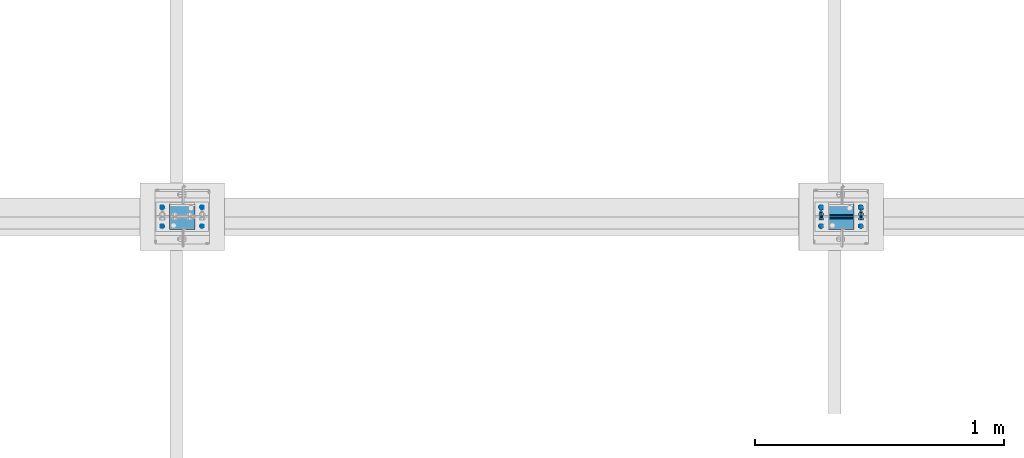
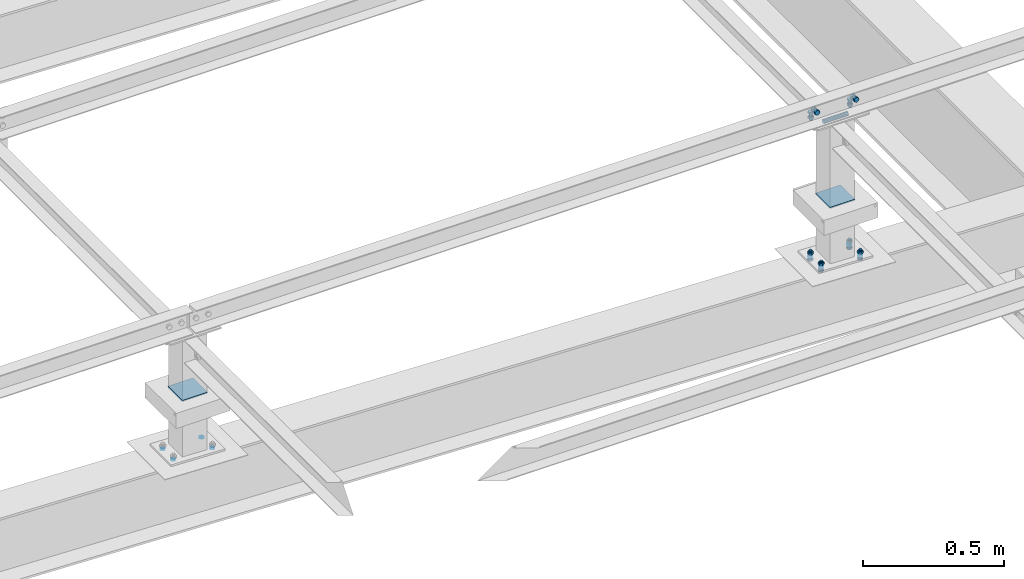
# One storey, part 189 of 3134: 8 mechanical fasteners, 5 elements without a shape of their own.
"""IFC2X3 building model written with IfcOpenShell, lengths in millimetres."""

import ifcopenshell
import ifcopenshell.guid

model = None  # the IFC model being written
_history = None  # IfcOwnerHistory: only IFC2X3 demands one
_inside = {}  # id of a spatial element -> (the spatial element, [elements in it])
_under = {}  # id of a project, library or spatial element -> (it, [spatial elements below it])
_declared = {}  # id of a project -> (the project, [libraries it declares])
_typed = {}  # id of a type object -> (the type object, [elements of that type])
_made_of = {}  # id of a material, layer set ... -> (it, [elements and type objects made of it])


def new_model(schema):
    """Start an empty IFC model of exactly this schema.

    Asked for "IFC4X3", IfcOpenShell would pick the latest addendum, in which some entities
    have other attributes; the version numbers below select the first issue.
    IFC2X3 requires an IfcOwnerHistory on every rooted entity: one is made here for all.
    """
    global model, _history
    if schema == "IFC4X3":
        model = ifcopenshell.file(schema_version=(4, 3, 0, 0))
    else:
        model = ifcopenshell.file(schema=schema)
    _inside.clear()
    _under.clear()
    _declared.clear()
    _typed.clear()
    _made_of.clear()
    _history = None
    if model.schema == "IFC2X3":
        org = make("IfcOrganization", Name="unknown")
        user = make(
            "IfcPersonAndOrganization",
            ThePerson=make("IfcPerson", FamilyName="unknown"),
            TheOrganization=org,
        )
        app = make(
            "IfcApplication",
            ApplicationDeveloper=org,
            Version="unknown",
            ApplicationFullName="unknown",
            ApplicationIdentifier="unknown",
        )
        _history = make(
            "IfcOwnerHistory",
            OwningUser=user,
            OwningApplication=app,
            ChangeAction="ADDED",
            CreationDate=0,
        )
    return model


def make(cls, **values):
    """One entity of the class cls with the attributes given. An attribute that is None is left unset."""
    return model.create_entity(
        cls, **{name: value for name, value in values.items() if value is not None}
    )


def rooted(cls, **values):
    """An entity with a GlobalId (a new one), such as an element, a storey or a relation."""
    return make(cls, GlobalId=ifcopenshell.guid.new(), OwnerHistory=_history, **values)


def si_unit(unit_type, name, prefix=None):
    """IfcSIUnit, for example si_unit("LENGTHUNIT", "METRE", prefix="MILLI")."""
    return make("IfcSIUnit", UnitType=unit_type, Prefix=prefix, Name=name)


def assignment(units):
    """IfcUnitAssignment: the units of a project."""
    return None if units is None else make("IfcUnitAssignment", Units=units)


def point(xyz):
    """IfcCartesianPoint."""
    return None if xyz is None else make("IfcCartesianPoint", Coordinates=xyz)


def direction(xyz):
    """IfcDirection."""
    return None if xyz is None else make("IfcDirection", DirectionRatios=xyz)


def frame(location, z_axis=None, x_axis=None):
    """IfcAxis2Placement3D, a coordinate frame: its origin and axes. An axis left out is left unset."""
    return make(
        "IfcAxis2Placement3D",
        Location=point(location),
        Axis=direction(z_axis),
        RefDirection=direction(x_axis),
    )


def origin_with_axes():
    """The frame at (0, 0, 0) with the z axis (0, 0, 1) and the x axis (1, 0, 0) written out."""
    return frame((0.0, 0.0, 0.0), z_axis=(0.0, 0.0, 1.0), x_axis=(1.0, 0.0, 0.0))


def place(relative_to, where):
    """IfcLocalPlacement: puts the frame where relative to a parent placement (None: the world)."""
    return make(
        "IfcLocalPlacement", PlacementRelTo=relative_to, RelativePlacement=where
    )


def context(
    kind, dimensions, precision=None, world=None, true_north=None, identifier=None
):
    """IfcGeometricRepresentationContext, for example the 3D "Model" context."""
    return make(
        "IfcGeometricRepresentationContext",
        ContextIdentifier=identifier,
        ContextType=kind,
        CoordinateSpaceDimension=dimensions,
        Precision=precision,
        WorldCoordinateSystem=world,
        TrueNorth=true_north,
    )


def subcontext(parent, identifier, kind, view, scale=None):
    """IfcGeometricRepresentationSubContext, for example "Body" below "Model"."""
    return make(
        "IfcGeometricRepresentationSubContext",
        ContextIdentifier=identifier,
        ContextType=kind,
        ParentContext=parent,
        TargetScale=scale,
        TargetView=view,
    )


def project(units=None, contexts=None):
    """IfcProject with its units and contexts."""
    return rooted(
        "IfcProject",
        Name="project",
        RepresentationContexts=contexts,
        UnitsInContext=assignment(units),
    )


def spatial(cls, under=None, at=None, **own):
    """A site, building, storey or space (cls), placed at a placement, below another one or the project."""
    s = rooted(cls, ObjectPlacement=at, **own)
    if under is not None:
        _under.setdefault(under.id(), (under, []))[1].append(s)
    return s


def faces_of(points, faces, orient=None, outer=None):
    """IfcFace entities. A face is a list of loops; a loop is a list of indices into points, from 0.

    orient and outer hold one flag for each loop. By default every Orientation is true, the
    first loop of a face is its IfcFaceOuterBound and the others are IfcFaceBound.
    """
    made = []
    for i, loops in enumerate(faces):
        bounds = []
        for j, loop in enumerate(loops):
            is_outer = j == 0 if outer is None else outer[i][j]
            bounds.append(
                make(
                    "IfcFaceOuterBound" if is_outer else "IfcFaceBound",
                    Bound=make("IfcPolyLoop", Polygon=[points[k] for k in loop]),
                    Orientation=True if orient is None else orient[i][j],
                )
            )
        made.append(make("IfcFace", Bounds=bounds))
    return made


def faceted_brep(points, faces, orient=None, outer=None, voids=None):
    """IfcFacetedBrep: a solid bounded by flat faces; with voids (closed shells), ...WithVoids."""
    shared = [point(p) for p in points]
    hull = make("IfcClosedShell", CfsFaces=faces_of(shared, faces, orient, outer))
    if voids is None:
        return make("IfcFacetedBrep", Outer=hull)
    return make(
        "IfcFacetedBrepWithVoids",
        Outer=hull,
        Voids=[
            make(cls, CfsFaces=faces_of(shared, fs, o, b)) for cls, fs, o, b in voids
        ],
    )


def shape(context_of_items, identifier, shape_type, items):
    """IfcShapeRepresentation: the items that make up one representation, for example the "Body"."""
    return make(
        "IfcShapeRepresentation",
        ContextOfItems=context_of_items,
        RepresentationIdentifier=identifier,
        RepresentationType=shape_type,
        Items=items,
    )


def source(mapping_origin, context_of_items, identifier, shape_type, items):
    """IfcRepresentationMap: a shape defined once, which mapped items show again and again."""
    return make(
        "IfcRepresentationMap",
        MappingOrigin=mapping_origin,
        MappedRepresentation=shape(context_of_items, identifier, shape_type, items),
    )


def transform(
    local_origin,
    x_axis=None,
    y_axis=None,
    z_axis=None,
    scale=None,
    scale2=None,
    scale3=None,
    uniform=True,
):
    """IfcCartesianTransformationOperator3D, or its non-uniform kind. x_axis, y_axis, z_axis: its Axis1, 2, 3."""
    if uniform:
        return make(
            "IfcCartesianTransformationOperator3D",
            Axis1=direction(x_axis),
            Axis2=direction(y_axis),
            LocalOrigin=point(local_origin),
            Scale=scale,
            Axis3=direction(z_axis),
        )
    return make(
        "IfcCartesianTransformationOperator3DnonUniform",
        Axis1=direction(x_axis),
        Axis2=direction(y_axis),
        LocalOrigin=point(local_origin),
        Scale=scale,
        Axis3=direction(z_axis),
        Scale2=scale2,
        Scale3=scale3,
    )


def mapped(mapping_source, mapping_target):
    """IfcMappedItem: shows the shape of a source again, moved by a transform."""
    return make(
        "IfcMappedItem", MappingSource=mapping_source, MappingTarget=mapping_target
    )


def material(Name=None, Category=None):
    """IfcMaterial."""
    return make("IfcMaterial", Name=Name, Category=Category)


def made_of(thing, what):
    """Note that an element or type object is made of a material, layer set ...; save() writes the relation."""
    if what is not None:
        _made_of.setdefault(what.id(), (what, []))[1].append(thing)
    return thing


def type_object(cls, material=None, **own):
    """A type object (cls), such as IfcWallType, which elements share."""
    return made_of(rooted(cls, **own), material)


def element(
    cls,
    number,
    at=None,
    inside=None,
    cuts=None,
    type_object=None,
    material=None,
    context=None,
    identifier="Body",
    shape_type=None,
    held_by="IfcProductDefinitionShape",
    body=None,
    shapes=None,
    **own,
):
    """One element of the class cls, such as IfcWall. Its Tag is "e" and its number.

    at: its placement. inside: the storey or other place that contains it. cuts: it is an
    opening in that element (IfcRelVoidsElement). A single representation is given by context,
    identifier, shape_type and body (its items); several are given by shapes. held_by: the class
    of the entity that holds the representations. save() writes the other relations.
    """
    e = rooted(cls, Tag="e%d" % number, ObjectPlacement=at, **own)
    if body is not None:
        shapes = [shape(context, identifier, shape_type, body)]
    if shapes is not None:
        e.Representation = make(held_by, Representations=shapes)
    if inside is not None:
        _inside.setdefault(inside.id(), (inside, []))[1].append(e)
    if cuts is not None:
        rooted(
            "IfcRelVoidsElement", RelatingBuildingElement=cuts, RelatedOpeningElement=e
        )
    if type_object is not None:
        _typed.setdefault(type_object.id(), (type_object, []))[1].append(e)
    return made_of(e, material)


def aggregate(whole, parts):
    """IfcRelAggregates: a whole, such as a stair, and the parts it consists of."""
    return rooted("IfcRelAggregates", RelatingObject=whole, RelatedObjects=parts)


def save(model, path):
    """Write the relations noted so far, then the file.

    IfcRelAggregates (storeys below a building ...), IfcRelContainedInSpatialStructure (elements
    in a storey), IfcRelDefinesByType, IfcRelAssociatesMaterial and IfcRelDeclares: one each for
    every whole, place, type object, material and project.
    """
    for whole, parts in _under.values():
        aggregate(whole, parts)
    for where, things in _inside.values():
        rooted(
            "IfcRelContainedInSpatialStructure",
            RelatedElements=things,
            RelatingStructure=where,
        )
    for kind, things in _typed.values():
        rooted("IfcRelDefinesByType", RelatedObjects=things, RelatingType=kind)
    for what, things in _made_of.values():
        rooted("IfcRelAssociatesMaterial", RelatedObjects=things, RelatingMaterial=what)
    for by, libraries in _declared.values():
        rooted("IfcRelDeclares", RelatingContext=by, RelatedDefinitions=libraries)
    model.write(path)


model = new_model("IFC2X3")

# Units and contexts
model_context = context("Model", 3, precision=1e-05, world=origin_with_axes())
body_context = subcontext(model_context, "Body", "Model", "MODEL_VIEW")
ifc_project = project(units=[si_unit("LENGTHUNIT", "METRE", prefix="MILLI"), si_unit("AREAUNIT", "SQUARE_METRE"), si_unit("VOLUMEUNIT", "CUBIC_METRE"), si_unit("MASSUNIT", "GRAM", prefix="KILO"), si_unit("TIMEUNIT", "SECOND"), si_unit("PLANEANGLEUNIT", "RADIAN"), si_unit("SOLIDANGLEUNIT", "STERADIAN"), si_unit("THERMODYNAMICTEMPERATUREUNIT", "DEGREE_CELSIUS"), si_unit("LUMINOUSINTENSITYUNIT", "LUMEN")], contexts=[model_context])

# Site, building, storey
site_placement = place(None, origin_with_axes())
site = spatial("IfcSite", under=ifc_project, at=site_placement, CompositionType="ELEMENT")
building_placement = place(site_placement, origin_with_axes())
building = spatial("IfcBuilding", under=site, at=building_placement, Name="Undefined", CompositionType="ELEMENT")
storey_placement = place(building_placement, origin_with_axes())
storey = spatial("IfcBuildingStorey", under=building, at=storey_placement, Name="Undefined", CompositionType="ELEMENT", Elevation=0.0)

# Assembly, mechanical fastener
assembly_1_placement = place(storey_placement, origin_with_axes())
assembly_1 = element("IfcElementAssembly", 1, at=assembly_1_placement, inside=storey, AssemblyPlace="NOTDEFINED", PredefinedType="RIGID_FRAME")
ifc_material_1 = material(Name="8.8")
mechanical_fastener_type = type_object("IfcMechanicalFastenerType", Name="Bolt assembly")
shared_shape_1 = source(origin_with_axes(), body_context, "Body", "Brep", [
    faceted_brep([(10.9696551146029, -14.0, 0.0), (5.48482755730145, -14.0, 9.5), (-5.48482755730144, -14.0, 9.5), (-10.9696551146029, -14.0, 1.34339530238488e-15), (-5.48482755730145, -14.0, -9.5), (5.48482755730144, -14.0, -9.50000000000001), (5.48482755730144, -6.0, -9.50000000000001), (-5.48482755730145, -6.0, -9.5), (-10.9696551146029, -6.0, 1.34339530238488e-15), (-5.48482755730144, -6.0, 9.5), (5.48482755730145, -6.0, 9.5), (10.9696551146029, -6.0, 0.0), (6.0, -6.0, 0.0), (5.19615242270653, -6.0, 3.00000000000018), (2.99999999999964, -6.0, 5.19615242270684), (-6.21801588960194e-13, -6.0, 6.0), (-3.00000000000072, -6.0, 5.19615242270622), (-5.19615242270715, -6.0, 2.9999999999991), (-6.0, -6.0, -1.24360317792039e-12), (-5.19615242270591, -6.0, -3.00000000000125), (-2.99999999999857, -6.0, -5.19615242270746), (1.85874342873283e-12, -6.0, -6.0), (3.00000000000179, -6.0, -5.1961524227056), (5.19615242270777, -6.0, -2.99999999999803), (5.19615242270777, 24.0, -2.99999999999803), (3.00000000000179, 24.0, -5.1961524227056), (1.85874342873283e-12, 24.0, -6.0), (-2.99999999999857, 24.0, -5.19615242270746), (-5.19615242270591, 24.0, -3.00000000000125), (-6.0, 24.0, -1.24360317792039e-12), (-5.19615242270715, 24.0, 2.9999999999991), (-3.00000000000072, 24.0, 5.19615242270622), (-6.21801588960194e-13, 24.0, 6.0), (2.99999999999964, 24.0, 5.19615242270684), (5.19615242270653, 24.0, 3.00000000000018), (6.0, 24.0, 0.0), (10.9696551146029, 6.00000000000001, 0.0), (5.48482755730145, 6.00000000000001, 9.5), (-5.48482755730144, 6.00000000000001, 9.5), (-10.9696551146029, 6.00000000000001, 1.34339530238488e-15), (-5.48482755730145, 6.00000000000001, -9.5), (5.48482755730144, 6.00000000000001, -9.50000000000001), (5.48482755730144, 16.0, -9.50000000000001), (-5.48482755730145, 16.0, -9.5), (-10.9696551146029, 16.0, 1.34339530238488e-15), (-5.48482755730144, 16.0, 9.5), (5.48482755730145, 16.0, 9.5), (10.9696551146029, 16.0, 0.0)], [[[0, 1, 2, 3, 4, 5]], [[6, 7, 8, 9, 10, 11]], [[0, 11, 10, 1]], [[1, 10, 9, 2]], [[2, 9, 8, 3]], [[3, 8, 7, 4]], [[4, 7, 6, 5]], [[5, 6, 11, 0]], [[12, 13, 14, 15, 16, 17, 18, 19, 20, 21, 22, 23]], [[24, 25, 26, 27, 28, 29, 30, 31, 32, 33, 34, 35]], [[12, 35, 34, 13]], [[13, 34, 33, 14]], [[14, 33, 32, 15]], [[15, 32, 31, 16]], [[16, 31, 30, 17]], [[17, 30, 29, 18]], [[18, 29, 28, 19]], [[19, 28, 27, 20]], [[20, 27, 26, 21]], [[21, 26, 25, 22]], [[22, 25, 24, 23]], [[23, 24, 35, 12]], [[36, 37, 38, 39, 40, 41]], [[42, 43, 44, 45, 46, 47]], [[36, 47, 46, 37]], [[37, 46, 45, 38]], [[38, 45, 44, 39]], [[39, 44, 43, 40]], [[40, 43, 42, 41]], [[41, 42, 47, 36]]]),
    faceted_brep([(7.0, -0.1, 0.0), (6.06217782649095, -0.1, 3.50000000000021), (3.49999999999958, -0.1, 6.06217782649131), (-7.25435187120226e-13, -0.1, 7.0), (-3.50000000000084, -0.1, 6.06217782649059), (-6.06217782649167, -0.1, 3.49999999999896), (-7.0, -0.1, -1.45087037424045e-12), (-6.06217782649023, -0.1, -3.50000000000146), (-3.49999999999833, -0.1, -6.06217782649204), (2.1685340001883e-12, -0.1, -7.0), (3.50000000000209, -0.1, -6.06217782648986), (6.0621778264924, -0.1, -3.4999999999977), (6.0621778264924, 6.00000000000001, -3.4999999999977), (3.50000000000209, 6.00000000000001, -6.06217782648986), (2.1685340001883e-12, 6.00000000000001, -7.0), (-3.49999999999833, 6.00000000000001, -6.06217782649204), (-6.06217782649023, 6.00000000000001, -3.50000000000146), (-7.0, 6.00000000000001, -1.45087037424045e-12), (-6.06217782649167, 6.00000000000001, 3.49999999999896), (-3.50000000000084, 6.00000000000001, 6.06217782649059), (-7.25435187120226e-13, 6.00000000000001, 7.0), (3.49999999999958, 6.00000000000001, 6.06217782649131), (6.06217782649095, 6.00000000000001, 3.50000000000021), (7.0, 6.00000000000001, 0.0), (7.0, -5.9, 0.0), (6.06217782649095, -5.9, 3.50000000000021), (3.49999999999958, -5.9, 6.06217782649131), (-7.25435187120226e-13, -5.9, 7.0), (-3.50000000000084, -5.9, 6.06217782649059), (-6.06217782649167, -5.9, 3.49999999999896), (-7.0, -5.9, -1.45087037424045e-12), (-6.06217782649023, -5.9, -3.50000000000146), (-3.49999999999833, -5.9, -6.06217782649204), (2.1685340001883e-12, -5.9, -7.0), (3.50000000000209, -5.9, -6.06217782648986), (6.0621778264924, -5.9, -3.4999999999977), (6.0621778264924, 0.0999999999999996, -3.4999999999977), (3.50000000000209, 0.0999999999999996, -6.06217782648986), (2.1685340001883e-12, 0.0999999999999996, -7.0), (-3.49999999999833, 0.0999999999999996, -6.06217782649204), (-6.06217782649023, 0.0999999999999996, -3.50000000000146), (-7.0, 0.0999999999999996, -1.45087037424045e-12), (-6.06217782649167, 0.0999999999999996, 3.49999999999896), (-3.50000000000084, 0.0999999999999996, 6.06217782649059), (-7.25435187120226e-13, 0.0999999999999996, 7.0), (3.49999999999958, 0.0999999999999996, 6.06217782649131), (6.06217782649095, 0.0999999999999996, 3.50000000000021), (7.0, 0.0999999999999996, 0.0)], [[[0, 1, 2, 3, 4, 5, 6, 7, 8, 9, 10, 11]], [[12, 13, 14, 15, 16, 17, 18, 19, 20, 21, 22, 23]], [[0, 23, 22, 1]], [[1, 22, 21, 2]], [[2, 21, 20, 3]], [[3, 20, 19, 4]], [[4, 19, 18, 5]], [[5, 18, 17, 6]], [[6, 17, 16, 7]], [[7, 16, 15, 8]], [[8, 15, 14, 9]], [[9, 14, 13, 10]], [[10, 13, 12, 11]], [[11, 12, 23, 0]], [[24, 25, 26, 27, 28, 29, 30, 31, 32, 33, 34, 35]], [[36, 37, 38, 39, 40, 41, 42, 43, 44, 45, 46, 47]], [[24, 47, 46, 25]], [[25, 46, 45, 26]], [[26, 45, 44, 27]], [[27, 44, 43, 28]], [[28, 43, 42, 29]], [[29, 42, 41, 30]], [[30, 41, 40, 31]], [[31, 40, 39, 32]], [[32, 39, 38, 33]], [[33, 38, 37, 34]], [[34, 37, 36, 35]], [[35, 36, 47, 24]]]),
])
mechanical_fastener_1_placement = place(assembly_1_placement, frame((8340.0, 40285.0, 4365.0), z_axis=(1.0, 0.0, 0.0), x_axis=(0.0, -1.0, 0.0)))
mechanical_fastener_1 = element("IfcMechanicalFastener", 2, at=mechanical_fastener_1_placement, type_object=mechanical_fastener_type, material=ifc_material_1, Name="Bolt assembly", NominalDiameter=12.0, NominalLength=30.0, context=body_context, shape_type="MappedRepresentation", body=[
    mapped(shared_shape_1, transform((0.0, -5.32963895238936e-10, -79.9999999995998))),
    mapped(shared_shape_1, transform((0.0, 5.3114490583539e-10, 79.9999999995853))),
])

assembly_2_placement = place(storey_placement, origin_with_axes())
assembly_2 = element("IfcElementAssembly", 3, at=assembly_2_placement, inside=storey, AssemblyPlace="NOTDEFINED", PredefinedType="RIGID_FRAME")
shared_shape_2 = source(origin_with_axes(), body_context, "Body", "Brep", [
    faceted_brep([(10.9696551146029, -4.18346828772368, 0.0), (5.48482755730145, -4.18346828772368, 9.5), (-5.48482755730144, -4.18346828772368, 9.5), (-10.9696551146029, -4.18346828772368, 1.34339530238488e-15), (-5.48482755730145, -4.18346828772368, -9.5), (5.48482755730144, -4.18346828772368, -9.50000000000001), (5.48482755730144, 3.81653171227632, -9.50000000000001), (-5.48482755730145, 3.81653171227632, -9.5), (-10.9696551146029, 3.81653171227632, 1.34339530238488e-15), (-5.48482755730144, 3.81653171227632, 9.5), (5.48482755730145, 3.81653171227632, 9.5), (10.9696551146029, 3.81653171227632, 0.0), (6.0, 3.81653171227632, 0.0), (5.19615242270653, 3.81653171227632, 3.00000000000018), (2.99999999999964, 3.81653171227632, 5.19615242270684), (-6.21801588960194e-13, 3.81653171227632, 6.0), (-3.00000000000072, 3.81653171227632, 5.19615242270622), (-5.19615242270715, 3.81653171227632, 2.9999999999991), (-6.0, 3.81653171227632, -1.24360317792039e-12), (-5.19615242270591, 3.81653171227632, -3.00000000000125), (-2.99999999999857, 3.81653171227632, -5.19615242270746), (1.85874342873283e-12, 3.81653171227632, -6.0), (3.00000000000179, 3.81653171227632, -5.1961524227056), (5.19615242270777, 3.81653171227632, -2.99999999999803), (5.19615242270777, 38.8165317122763, -2.99999999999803), (3.00000000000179, 38.8165317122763, -5.1961524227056), (1.85874342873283e-12, 38.8165317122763, -6.0), (-2.99999999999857, 38.8165317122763, -5.19615242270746), (-5.19615242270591, 38.8165317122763, -3.00000000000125), (-6.0, 38.8165317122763, -1.24360317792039e-12), (-5.19615242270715, 38.8165317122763, 2.9999999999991), (-3.00000000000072, 38.8165317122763, 5.19615242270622), (-6.21801588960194e-13, 38.8165317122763, 6.0), (2.99999999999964, 38.8165317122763, 5.19615242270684), (5.19615242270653, 38.8165317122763, 3.00000000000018), (6.0, 38.8165317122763, 0.0), (10.9696551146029, 23.0139082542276, 0.0), (5.48482755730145, 23.0139082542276, 9.5), (-5.48482755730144, 23.0139082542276, 9.5), (-10.9696551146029, 23.0139082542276, 1.34339530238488e-15), (-5.48482755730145, 23.0139082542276, -9.5), (5.48482755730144, 23.0139082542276, -9.50000000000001), (5.48482755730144, 33.0139082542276, -9.50000000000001), (-5.48482755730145, 33.0139082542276, -9.5), (-10.9696551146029, 33.0139082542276, 1.34339530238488e-15), (-5.48482755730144, 33.0139082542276, 9.5), (5.48482755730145, 33.0139082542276, 9.5), (10.9696551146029, 33.0139082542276, 0.0)], [[[0, 1, 2, 3, 4, 5]], [[6, 7, 8, 9, 10, 11]], [[0, 11, 10, 1]], [[1, 10, 9, 2]], [[2, 9, 8, 3]], [[3, 8, 7, 4]], [[4, 7, 6, 5]], [[5, 6, 11, 0]], [[12, 13, 14, 15, 16, 17, 18, 19, 20, 21, 22, 23]], [[24, 25, 26, 27, 28, 29, 30, 31, 32, 33, 34, 35]], [[12, 35, 34, 13]], [[13, 34, 33, 14]], [[14, 33, 32, 15]], [[15, 32, 31, 16]], [[16, 31, 30, 17]], [[17, 30, 29, 18]], [[18, 29, 28, 19]], [[19, 28, 27, 20]], [[20, 27, 26, 21]], [[21, 26, 25, 22]], [[22, 25, 24, 23]], [[23, 24, 35, 12]], [[36, 37, 38, 39, 40, 41]], [[42, 43, 44, 45, 46, 47]], [[36, 47, 46, 37]], [[37, 46, 45, 38]], [[38, 45, 44, 39]], [[39, 44, 43, 40]], [[40, 43, 42, 41]], [[41, 42, 47, 36]]]),
    faceted_brep([(7.0, 3.91653171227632, 0.0), (6.06217782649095, 3.91653171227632, 3.50000000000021), (3.49999999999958, 3.91653171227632, 6.06217782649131), (-7.25435187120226e-13, 3.91653171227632, 7.0), (-3.50000000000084, 3.91653171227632, 6.06217782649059), (-6.06217782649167, 3.91653171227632, 3.49999999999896), (-7.0, 3.91653171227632, -1.45087037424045e-12), (-6.06217782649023, 3.91653171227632, -3.50000000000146), (-3.49999999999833, 3.91653171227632, -6.06217782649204), (2.1685340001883e-12, 3.91653171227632, -7.0), (3.50000000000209, 3.91653171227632, -6.06217782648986), (6.0621778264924, 3.91653171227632, -3.4999999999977), (6.0621778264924, 13.1165315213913, -3.4999999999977), (3.50000000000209, 13.1165315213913, -6.06217782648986), (2.1685340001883e-12, 13.1165315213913, -7.0), (-3.49999999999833, 13.1165315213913, -6.06217782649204), (-6.06217782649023, 13.1165315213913, -3.50000000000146), (-7.0, 13.1165315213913, -1.45087037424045e-12), (-6.06217782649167, 13.1165315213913, 3.49999999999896), (-3.50000000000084, 13.1165315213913, 6.06217782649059), (-7.25435187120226e-13, 13.1165315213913, 7.0), (3.49999999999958, 13.1165315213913, 6.06217782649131), (6.06217782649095, 13.1165315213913, 3.50000000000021), (7.0, 13.1165315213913, 0.0), (7.0, 14.9139082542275, 0.0), (6.06217782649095, 14.9139082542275, 3.50000000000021), (3.49999999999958, 14.9139082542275, 6.06217782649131), (-7.25435187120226e-13, 14.9139082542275, 7.0), (-3.50000000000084, 14.9139082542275, 6.06217782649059), (-6.06217782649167, 14.9139082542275, 3.49999999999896), (-7.0, 14.9139082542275, -1.45087037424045e-12), (-6.06217782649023, 14.9139082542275, -3.50000000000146), (-3.49999999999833, 14.9139082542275, -6.06217782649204), (2.1685340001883e-12, 14.9139082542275, -7.0), (3.50000000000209, 14.9139082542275, -6.06217782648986), (6.0621778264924, 14.9139082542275, -3.4999999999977), (6.0621778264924, 23.0139082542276, -3.4999999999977), (3.50000000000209, 23.0139082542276, -6.06217782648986), (2.1685340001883e-12, 23.0139082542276, -7.0), (-3.49999999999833, 23.0139082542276, -6.06217782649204), (-6.06217782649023, 23.0139082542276, -3.50000000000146), (-7.0, 23.0139082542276, -1.45087037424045e-12), (-6.06217782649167, 23.0139082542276, 3.49999999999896), (-3.50000000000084, 23.0139082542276, 6.06217782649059), (-7.25435187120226e-13, 23.0139082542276, 7.0), (3.49999999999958, 23.0139082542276, 6.06217782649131), (6.06217782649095, 23.0139082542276, 3.50000000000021), (7.0, 23.0139082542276, 0.0)], [[[0, 1, 2, 3, 4, 5, 6, 7, 8, 9, 10, 11]], [[12, 13, 14, 15, 16, 17, 18, 19, 20, 21, 22, 23]], [[0, 23, 22, 1]], [[1, 22, 21, 2]], [[2, 21, 20, 3]], [[3, 20, 19, 4]], [[4, 19, 18, 5]], [[5, 18, 17, 6]], [[6, 17, 16, 7]], [[7, 16, 15, 8]], [[8, 15, 14, 9]], [[9, 14, 13, 10]], [[10, 13, 12, 11]], [[11, 12, 23, 0]], [[24, 25, 26, 27, 28, 29, 30, 31, 32, 33, 34, 35]], [[36, 37, 38, 39, 40, 41, 42, 43, 44, 45, 46, 47]], [[24, 47, 46, 25]], [[25, 46, 45, 26]], [[26, 45, 44, 27]], [[27, 44, 43, 28]], [[28, 43, 42, 29]], [[29, 42, 41, 30]], [[30, 41, 40, 31]], [[31, 40, 39, 32]], [[32, 39, 38, 33]], [[33, 38, 37, 34]], [[34, 37, 36, 35]], [[35, 36, 47, 24]]]),
])
mechanical_fastener_2_placement = place(assembly_2_placement, frame((8339.1931765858, 40287.9999999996, 3735.10000668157), z_axis=(-0.999387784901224, 0.0, 0.0349865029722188), x_axis=(0.0, -1.0, 0.0)))
mechanical_fastener_2 = element("IfcMechanicalFastener", 4, at=mechanical_fastener_2_placement, type_object=mechanical_fastener_type, material=ifc_material_1, Name="Bolt assembly", NominalDiameter=12.0, NominalLength=35.0, context=body_context, shape_type="MappedRepresentation", body=[
    mapped(shared_shape_2, transform((0.0, -5.32963895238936e-10, -79.9999999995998))),
    mapped(shared_shape_2, transform((76.0, -5.32963895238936e-10, -79.9999999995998))),
    mapped(shared_shape_2, transform((0.0, 5.3114490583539e-10, 79.9999999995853))),
    mapped(shared_shape_2, transform((76.0, 5.3114490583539e-10, 79.9999999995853))),
])

assembly_3_placement = place(storey_placement, origin_with_axes())
assembly_3 = element("IfcElementAssembly", 5, at=assembly_3_placement, inside=storey, AssemblyPlace="NOTDEFINED", PredefinedType="RIGID_FRAME")
shared_shape_3 = source(origin_with_axes(), body_context, "Body", "Brep", [
    faceted_brep([(7.0, 13.0000253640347, 0.0), (6.06217782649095, 13.0000253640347, 3.50000000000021), (3.49999999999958, 13.0000253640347, 6.06217782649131), (-7.25435187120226e-13, 13.0000253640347, 7.0), (-3.50000000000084, 13.0000253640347, 6.06217782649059), (-6.06217782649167, 13.0000253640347, 3.49999999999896), (-7.0, 13.0000253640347, -1.45087037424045e-12), (-6.06217782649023, 13.0000253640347, -3.50000000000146), (-3.49999999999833, 13.0000253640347, -6.06217782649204), (2.1685340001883e-12, 13.0000253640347, -7.0), (3.50000000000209, 13.0000253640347, -6.06217782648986), (6.0621778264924, 13.0000253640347, -3.4999999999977), (6.0621778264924, 15.0999999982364, -3.4999999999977), (3.50000000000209, 15.0999999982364, -6.06217782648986), (2.1685340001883e-12, 15.0999999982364, -7.0), (-3.49999999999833, 15.0999999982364, -6.06217782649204), (-6.06217782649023, 15.0999999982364, -3.50000000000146), (-7.0, 15.0999999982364, -1.45087037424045e-12), (-6.06217782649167, 15.0999999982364, 3.49999999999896), (-3.50000000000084, 15.0999999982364, 6.06217782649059), (-7.25435187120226e-13, 15.0999999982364, 7.0), (3.49999999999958, 15.0999999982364, 6.06217782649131), (6.06217782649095, 15.0999999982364, 3.50000000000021), (7.0, 15.0999999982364, 0.0)], [[[0, 1, 2, 3, 4, 5, 6, 7, 8, 9, 10, 11]], [[12, 13, 14, 15, 16, 17, 18, 19, 20, 21, 22, 23]], [[0, 23, 22, 1]], [[1, 22, 21, 2]], [[2, 21, 20, 3]], [[3, 20, 19, 4]], [[4, 19, 18, 5]], [[5, 18, 17, 6]], [[6, 17, 16, 7]], [[7, 16, 15, 8]], [[8, 15, 14, 9]], [[9, 14, 13, 10]], [[10, 13, 12, 11]], [[11, 12, 23, 0]]]),
])
mechanical_fastener_3_placement = place(assembly_3_placement, frame((5690.86474073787, 40287.9999999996, 3827.79222028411), z_axis=(-0.999387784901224, 0.0, 0.0349865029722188), x_axis=(0.0, -1.0, 0.0)))
mechanical_fastener_3 = element("IfcMechanicalFastener", 6, at=mechanical_fastener_3_placement, type_object=mechanical_fastener_type, material=ifc_material_1, Name="Bolt assembly", NominalDiameter=12.0, NominalLength=2.0, context=body_context, shape_type="MappedRepresentation", body=[
    mapped(shared_shape_3, transform((0.0, -5.32963895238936e-10, -79.9999999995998))),
    mapped(shared_shape_3, transform((76.0, -5.32963895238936e-10, -79.9999999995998))),
    mapped(shared_shape_3, transform((0.0, 5.3114490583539e-10, 79.9999999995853))),
    mapped(shared_shape_3, transform((76.0, 5.3114490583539e-10, 79.9999999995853))),
])
aggregate(assembly_3, [mechanical_fastener_3])

assembly_4_placement = place(storey_placement, origin_with_axes())
assembly_4 = element("IfcElementAssembly", 7, at=assembly_4_placement, inside=storey, AssemblyPlace="NOTDEFINED", PredefinedType="RIGID_FRAME")
mechanical_fastener_4_placement = place(assembly_4_placement, frame((8339.1931765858, 40287.9999999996, 3735.10000668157), z_axis=(-0.999387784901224, 0.0, 0.0349865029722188), x_axis=(0.0, -1.0, 0.0)))
mechanical_fastener_4 = element("IfcMechanicalFastener", 8, at=mechanical_fastener_4_placement, type_object=mechanical_fastener_type, material=ifc_material_1, Name="Bolt assembly", NominalDiameter=12.0, NominalLength=2.0, context=body_context, shape_type="MappedRepresentation", body=[
    mapped(shared_shape_3, transform((0.0, -5.32963895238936e-10, -79.9999999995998))),
    mapped(shared_shape_3, transform((76.0, -5.32963895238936e-10, -79.9999999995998))),
    mapped(shared_shape_3, transform((0.0, 5.3114490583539e-10, 79.9999999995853))),
    mapped(shared_shape_3, transform((76.0, 5.3114490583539e-10, 79.9999999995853))),
])
aggregate(assembly_4, [mechanical_fastener_4])

# Mechanical fastener
shared_shape_4 = source(origin_with_axes(), body_context, "Body", "Brep", [
    faceted_brep([(9.0, -50.0, 0.0), (7.79422863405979, -50.0, 4.50000000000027), (4.49999999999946, -50.0, 7.79422863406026), (-9.3270238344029e-13, -50.0, 9.0), (-4.50000000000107, -50.0, 7.79422863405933), (-7.79422863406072, -50.0, 4.49999999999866), (-9.0, -50.0, -1.86540476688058e-12), (-7.79422863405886, -50.0, -4.50000000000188), (-4.49999999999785, -50.0, -7.79422863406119), (2.78811514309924e-12, -50.0, -9.0), (4.50000000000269, -50.0, -7.7942286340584), (7.79422863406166, -50.0, -4.49999999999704), (7.79422863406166, 50.1, -4.49999999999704), (4.50000000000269, 50.1, -7.7942286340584), (2.78811514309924e-12, 50.1, -9.0), (-4.49999999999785, 50.1, -7.79422863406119), (-7.79422863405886, 50.1, -4.50000000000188), (-9.0, 50.1, -1.86540476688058e-12), (-7.79422863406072, 50.1, 4.49999999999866), (-4.50000000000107, 50.1, 7.79422863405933), (-9.3270238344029e-13, 50.1, 9.0), (4.49999999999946, 50.1, 7.79422863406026), (7.79422863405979, 50.1, 4.50000000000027), (9.0, 50.1, 0.0)], [[[0, 1, 2, 3, 4, 5, 6, 7, 8, 9, 10, 11]], [[12, 13, 14, 15, 16, 17, 18, 19, 20, 21, 22, 23]], [[0, 23, 22, 1]], [[1, 22, 21, 2]], [[2, 21, 20, 3]], [[3, 20, 19, 4]], [[4, 19, 18, 5]], [[5, 18, 17, 6]], [[6, 17, 16, 7]], [[7, 16, 15, 8]], [[8, 15, 14, 9]], [[9, 14, 13, 10]], [[10, 13, 12, 11]], [[11, 12, 23, 0]]]),
])
mechanical_fastener_5_placement = place(assembly_2_placement, frame((8340.0, 40250.0, 4345.0), z_axis=(0.0, 1.0, 0.0), x_axis=(0.0, 0.0, 1.0)))
mechanical_fastener_5 = element("IfcMechanicalFastener", 9, at=mechanical_fastener_5_placement, type_object=mechanical_fastener_type, material=ifc_material_1, Name="Bolt assembly", NominalDiameter=16.0, NominalLength=100.0, context=body_context, shape_type="MappedRepresentation", body=[
    mapped(shared_shape_4, transform((0.0, 0.0, 0.0))),
])

# Assembly, mechanical fastener
assembly_5_placement = place(storey_placement, origin_with_axes())
assembly_5 = element("IfcElementAssembly", 10, at=assembly_5_placement, inside=storey, AssemblyPlace="NOTDEFINED", PredefinedType="RIGID_FRAME")
ifc_material_2 = material(Name="6.8")
shared_shape_5 = source(origin_with_axes(), body_context, "Body", "Brep", [
    faceted_brep([(51.5, 1.36424205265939e-12, 50.0), (51.3858192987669, 1.36424205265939e-12, 50.5740251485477), (51.0606601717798, 1.36424205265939e-12, 51.0606601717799), (50.5740251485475, 1.36424205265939e-12, 51.385819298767), (-50.0000000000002, 1.36424205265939e-12, 51.5), (-50.7500000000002, 1.36424205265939e-12, 51.2990381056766), (-51.2990381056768, 1.36424205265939e-12, 50.7499999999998), (-51.5, 1.36424205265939e-12, 49.9999999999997), (-51.5, 1.36424205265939e-12, -50.0000000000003), (-51.2990381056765, 1.36424205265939e-12, -50.7500000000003), (-50.7499999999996, 1.36424205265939e-12, -51.2990381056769), (-49.9999999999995, 1.36424205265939e-12, -51.5), (50.0000000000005, 1.36424205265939e-12, -51.5), (50.7500000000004, 1.36424205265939e-12, -51.2990381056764), (51.2990381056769, 1.36424205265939e-12, -50.7499999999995), (51.5, 1.36424205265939e-12, -49.9999999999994), (51.5, 5.10000000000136, -49.9999999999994), (51.2990381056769, 5.10000000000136, -50.7499999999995), (50.7500000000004, 5.10000000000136, -51.2990381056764), (50.0000000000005, 5.10000000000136, -51.5), (-49.9999999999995, 5.10000000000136, -51.5), (-50.7499999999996, 5.10000000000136, -51.2990381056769), (-51.2990381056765, 5.10000000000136, -50.7500000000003), (-51.5, 5.10000000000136, -50.0000000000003), (-51.5, 5.10000000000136, 49.9999999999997), (-51.2990381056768, 5.10000000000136, 50.7499999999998), (-50.7500000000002, 5.10000000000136, 51.2990381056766), (-50.0000000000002, 5.10000000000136, 51.5), (50.5740251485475, 5.10000000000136, 51.385819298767), (51.0606601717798, 5.10000000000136, 51.0606601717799), (51.3858192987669, 5.10000000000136, 50.5740251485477), (51.5, 5.10000000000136, 50.0)], [[[0, 1, 2, 3, 4, 5, 6, 7, 8, 9, 10, 11, 12, 13, 14, 15]], [[16, 17, 18, 19, 20, 21, 22, 23, 24, 25, 26, 27, 28, 29, 30, 31]], [[0, 31, 30, 1]], [[1, 30, 29, 2]], [[2, 29, 28, 3]], [[3, 28, 27, 4]], [[4, 27, 26, 5]], [[5, 26, 25, 6]], [[6, 25, 24, 7]], [[7, 24, 23, 8]], [[8, 23, 22, 9]], [[9, 22, 21, 10]], [[10, 21, 20, 11]], [[11, 20, 19, 12]], [[12, 19, 18, 13]], [[13, 18, 17, 14]], [[14, 17, 16, 15]], [[15, 16, 31, 0]]]),
])
mechanical_fastener_6_placement = place(assembly_5_placement, frame((5691.66156415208, 40250.0, 4097.5922136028), z_axis=(0.0, -1.0, 0.0), x_axis=(-1.0, 0.0, 0.0)))
mechanical_fastener_6 = element("IfcMechanicalFastener", 11, at=mechanical_fastener_6_placement, type_object=mechanical_fastener_type, material=ifc_material_2, Name="Bolt assembly", NominalDiameter=10.0, NominalLength=5.0, context=body_context, shape_type="MappedRepresentation", body=[
    mapped(shared_shape_5, transform((0.0, 0.0, 0.0))),
])
aggregate(assembly_5, [mechanical_fastener_6])

# Mechanical fastener
mechanical_fastener_7_placement = place(assembly_2_placement, frame((8340.0, 40250.0, 4004.89), z_axis=(0.0, -1.0, 0.0), x_axis=(-1.0, 0.0, 0.0)))
mechanical_fastener_7 = element("IfcMechanicalFastener", 12, at=mechanical_fastener_7_placement, type_object=mechanical_fastener_type, material=ifc_material_2, Name="Bolt assembly", NominalDiameter=10.0, NominalLength=5.0, context=body_context, shape_type="MappedRepresentation", body=[
    mapped(shared_shape_5, transform((0.0, 0.0, 0.0))),
])

aggregate(assembly_2, [mechanical_fastener_2, mechanical_fastener_5, mechanical_fastener_7])

shared_shape_6 = source(origin_with_axes(), body_context, "Body", "Brep", [
    faceted_brep([(10.9696551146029, -12.0, 0.0), (5.48482755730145, -12.0, 9.5), (-5.48482755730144, -12.0, 9.5), (-10.9696551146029, -12.0, 1.34339530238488e-15), (-5.48482755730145, -12.0, -9.5), (5.48482755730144, -12.0, -9.50000000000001), (5.48482755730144, -4.0, -9.50000000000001), (-5.48482755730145, -4.0, -9.5), (-10.9696551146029, -4.0, 1.34339530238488e-15), (-5.48482755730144, -4.0, 9.5), (5.48482755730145, -4.0, 9.5), (10.9696551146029, -4.0, 0.0), (6.0, -4.0, 0.0), (5.19615242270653, -4.0, 3.00000000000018), (2.99999999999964, -4.0, 5.19615242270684), (-6.21801588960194e-13, -4.0, 6.0), (-3.00000000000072, -4.0, 5.19615242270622), (-5.19615242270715, -4.0, 2.9999999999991), (-6.0, -4.0, -1.24360317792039e-12), (-5.19615242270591, -4.0, -3.00000000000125), (-2.99999999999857, -4.0, -5.19615242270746), (1.85874342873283e-12, -4.0, -6.0), (3.00000000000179, -4.0, -5.1961524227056), (5.19615242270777, -4.0, -2.99999999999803), (5.19615242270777, 21.0, -2.99999999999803), (3.00000000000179, 21.0, -5.1961524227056), (1.85874342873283e-12, 21.0, -6.0), (-2.99999999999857, 21.0, -5.19615242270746), (-5.19615242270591, 21.0, -3.00000000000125), (-6.0, 21.0, -1.24360317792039e-12), (-5.19615242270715, 21.0, 2.9999999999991), (-3.00000000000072, 21.0, 5.19615242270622), (-6.21801588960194e-13, 21.0, 6.0), (2.99999999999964, 21.0, 5.19615242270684), (5.19615242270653, 21.0, 3.00000000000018), (6.0, 21.0, 0.0), (10.9696551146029, 6.00000000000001, 0.0), (5.48482755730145, 6.00000000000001, 9.5), (-5.48482755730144, 6.00000000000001, 9.5), (-10.9696551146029, 6.00000000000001, 1.34339530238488e-15), (-5.48482755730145, 6.00000000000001, -9.5), (5.48482755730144, 6.00000000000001, -9.50000000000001), (5.48482755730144, 16.0, -9.50000000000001), (-5.48482755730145, 16.0, -9.5), (-10.9696551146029, 16.0, 1.34339530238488e-15), (-5.48482755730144, 16.0, 9.5), (5.48482755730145, 16.0, 9.5), (10.9696551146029, 16.0, 0.0)], [[[0, 1, 2, 3, 4, 5]], [[6, 7, 8, 9, 10, 11]], [[0, 11, 10, 1]], [[1, 10, 9, 2]], [[2, 9, 8, 3]], [[3, 8, 7, 4]], [[4, 7, 6, 5]], [[5, 6, 11, 0]], [[12, 13, 14, 15, 16, 17, 18, 19, 20, 21, 22, 23]], [[24, 25, 26, 27, 28, 29, 30, 31, 32, 33, 34, 35]], [[12, 35, 34, 13]], [[13, 34, 33, 14]], [[14, 33, 32, 15]], [[15, 32, 31, 16]], [[16, 31, 30, 17]], [[17, 30, 29, 18]], [[18, 29, 28, 19]], [[19, 28, 27, 20]], [[20, 27, 26, 21]], [[21, 26, 25, 22]], [[22, 25, 24, 23]], [[23, 24, 35, 12]], [[36, 37, 38, 39, 40, 41]], [[42, 43, 44, 45, 46, 47]], [[36, 47, 46, 37]], [[37, 46, 45, 38]], [[38, 45, 44, 39]], [[39, 44, 43, 40]], [[40, 43, 42, 41]], [[41, 42, 47, 36]]]),
    faceted_brep([(7.0, -3.9, 0.0), (6.06217782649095, -3.9, 3.50000000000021), (3.49999999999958, -3.9, 6.06217782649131), (-7.25435187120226e-13, -3.9, 7.0), (-3.50000000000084, -3.9, 6.06217782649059), (-6.06217782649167, -3.9, 3.49999999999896), (-7.0, -3.9, -1.45087037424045e-12), (-6.06217782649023, -3.9, -3.50000000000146), (-3.49999999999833, -3.9, -6.06217782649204), (2.1685340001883e-12, -3.9, -7.0), (3.50000000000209, -3.9, -6.06217782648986), (6.0621778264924, -3.9, -3.4999999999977), (6.0621778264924, 0.0999999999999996, -3.4999999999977), (3.50000000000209, 0.0999999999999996, -6.06217782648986), (2.1685340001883e-12, 0.0999999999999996, -7.0), (-3.49999999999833, 0.0999999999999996, -6.06217782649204), (-6.06217782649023, 0.0999999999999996, -3.50000000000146), (-7.0, 0.0999999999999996, -1.45087037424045e-12), (-6.06217782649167, 0.0999999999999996, 3.49999999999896), (-3.50000000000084, 0.0999999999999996, 6.06217782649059), (-7.25435187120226e-13, 0.0999999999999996, 7.0), (3.49999999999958, 0.0999999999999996, 6.06217782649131), (6.06217782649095, 0.0999999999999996, 3.50000000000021), (7.0, 0.0999999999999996, 0.0), (7.0, -0.1, 0.0), (6.06217782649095, -0.1, 3.50000000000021), (3.49999999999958, -0.1, 6.06217782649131), (-7.25435187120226e-13, -0.1, 7.0), (-3.50000000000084, -0.1, 6.06217782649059), (-6.06217782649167, -0.1, 3.49999999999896), (-7.0, -0.1, -1.45087037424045e-12), (-6.06217782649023, -0.1, -3.50000000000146), (-3.49999999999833, -0.1, -6.06217782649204), (2.1685340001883e-12, -0.1, -7.0), (3.50000000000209, -0.1, -6.06217782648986), (6.0621778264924, -0.1, -3.4999999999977), (6.0621778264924, 6.00000000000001, -3.4999999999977), (3.50000000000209, 6.00000000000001, -6.06217782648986), (2.1685340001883e-12, 6.00000000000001, -7.0), (-3.49999999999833, 6.00000000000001, -6.06217782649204), (-6.06217782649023, 6.00000000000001, -3.50000000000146), (-7.0, 6.00000000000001, -1.45087037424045e-12), (-6.06217782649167, 6.00000000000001, 3.49999999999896), (-3.50000000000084, 6.00000000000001, 6.06217782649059), (-7.25435187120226e-13, 6.00000000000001, 7.0), (3.49999999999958, 6.00000000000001, 6.06217782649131), (6.06217782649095, 6.00000000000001, 3.50000000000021), (7.0, 6.00000000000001, 0.0)], [[[0, 1, 2, 3, 4, 5, 6, 7, 8, 9, 10, 11]], [[12, 13, 14, 15, 16, 17, 18, 19, 20, 21, 22, 23]], [[0, 23, 22, 1]], [[1, 22, 21, 2]], [[2, 21, 20, 3]], [[3, 20, 19, 4]], [[4, 19, 18, 5]], [[5, 18, 17, 6]], [[6, 17, 16, 7]], [[7, 16, 15, 8]], [[8, 15, 14, 9]], [[9, 14, 13, 10]], [[10, 13, 12, 11]], [[11, 12, 23, 0]], [[24, 25, 26, 27, 28, 29, 30, 31, 32, 33, 34, 35]], [[36, 37, 38, 39, 40, 41, 42, 43, 44, 45, 46, 47]], [[24, 47, 46, 25]], [[25, 46, 45, 26]], [[26, 45, 44, 27]], [[27, 44, 43, 28]], [[28, 43, 42, 29]], [[29, 42, 41, 30]], [[30, 41, 40, 31]], [[31, 40, 39, 32]], [[32, 39, 38, 33]], [[33, 38, 37, 34]], [[34, 37, 36, 35]], [[35, 36, 47, 24]]]),
])
mechanical_fastener_8_placement = place(assembly_1_placement, frame((8340.0, 40250.0, 4400.0), z_axis=(1.0, 0.0, 0.0), x_axis=(0.0, 0.0, -1.0)))
mechanical_fastener_8 = element("IfcMechanicalFastener", 13, at=mechanical_fastener_8_placement, type_object=mechanical_fastener_type, material=ifc_material_1, Name="Bolt assembly", NominalDiameter=12.0, NominalLength=25.0, context=body_context, shape_type="MappedRepresentation", body=[
    mapped(shared_shape_6, transform((0.0, -5.32963895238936e-10, -79.9999999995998))),
    mapped(shared_shape_6, transform((0.0, 5.3114490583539e-10, 79.9999999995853))),
])

aggregate(assembly_1, [mechanical_fastener_8, mechanical_fastener_1])

save(model, "model.ifc")
